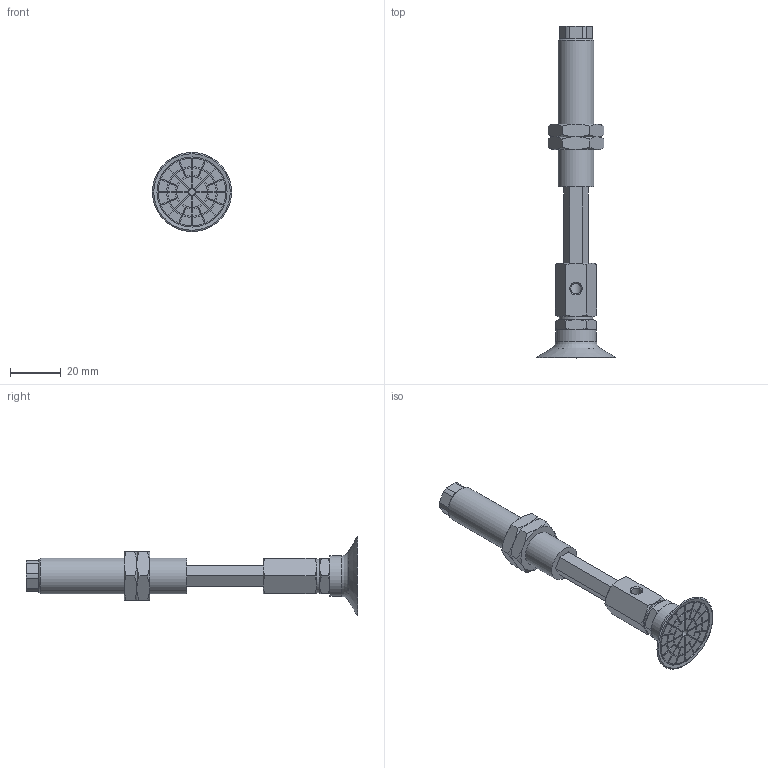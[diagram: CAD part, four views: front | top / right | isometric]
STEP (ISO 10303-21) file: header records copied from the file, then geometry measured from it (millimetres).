
FILE_DESCRIPTION(('STEP AP203'),'1');
FILE_NAME('.stp','2025-03-13T07:52:10',(' '),(' '),'Spatial InterOp 3D',' ',' ');
FILE_SCHEMA(('CONFIG_CONTROL_DESIGN'));
Length unit declared in the file: millimetre
Products named in the file (7): BNABPAYH-30B-30-※; NAPATH-30B-30--M; NAPATH-30B-30--F; Nut-25-S; CONNECTOR-30B-30-PA; TN-PA-30B-M6; BPAG-30B-※
Assembly tree (7 placements, depth 2):
  BNABPAYH-30B-30-※
    NAPATH-30B-30--M
    NAPATH-30B-30--F
    Nut-25-S  x2
    CONNECTOR-30B-30-PA
    TN-PA-30B-M6
    BPAG-30B-※
Bounding box: 31.04 x 130.2 x 31.04 mm (x, y, z)
Volume: 19792.9 mm3; surface area: 15018.6 mm2
Topology: 7 solids, 7 shells, 374 faces, 873 edges, 558 vertices
Faces by surface type: plane 207, cylinder 96, cone 65, torus 6
Full cylindrical faces by diameter (mm): 2.5 x1, 3 x2, 4.134 x2, 4.917 x1, 5 x1, 6 x3, 10 x2, 12.917 x2, 13 x1, 14 x1, 16 x1, 27.5 x1
Entity records: 10458 total; most frequent: CARTESIAN_POINT 2106, DIRECTION 1690, ORIENTED_EDGE 1564, EDGE_CURVE 782, AXIS2_PLACEMENT_3D 624, VERTEX_POINT 524, EDGE_LOOP 444, LINE 442
